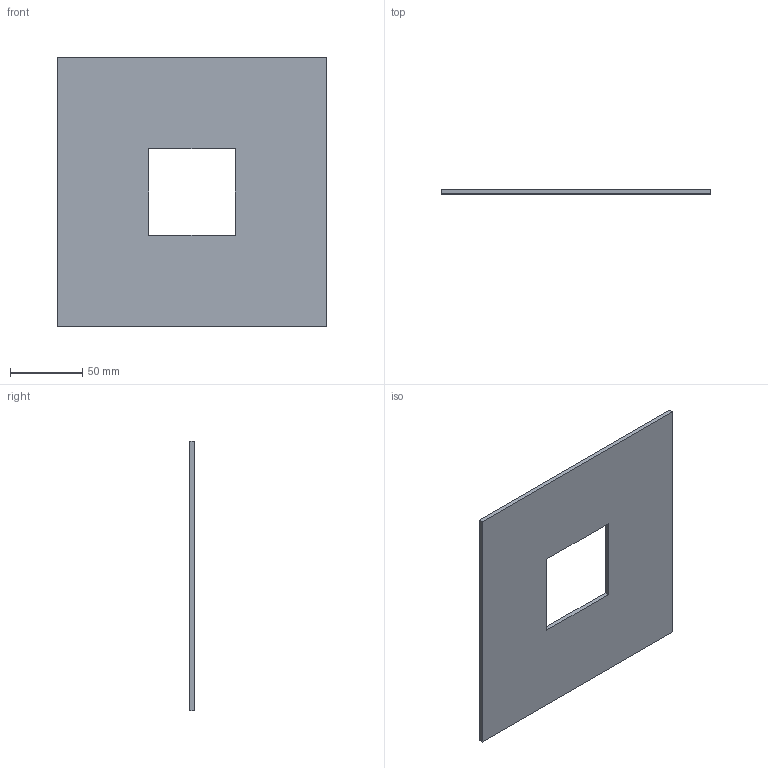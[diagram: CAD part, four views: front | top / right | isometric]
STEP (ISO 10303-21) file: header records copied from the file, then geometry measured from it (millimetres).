
FILE_DESCRIPTION(('Open CASCADE Model'),'2;1');
FILE_NAME('Open CASCADE Shape Model','2026-10-16T18:52:00',('Author'),( 'Open CASCADE'),'Open CASCADE STEP processor 7.8','Open CASCADE 7.8' ,'Unknown');
FILE_SCHEMA(('AUTOMOTIVE_DESIGN { 1 0 10303 214 1 1 1 1 }'));
Length unit declared in the file: millimetre
Products named in the file (1): Open CASCADE STEP translator 7.8 21
Bounding box: 186 x 3 x 186 mm (x, y, z)
Volume: 92988 mm3; surface area: 64944 mm2
Topology: 1 solids, 1 shells, 10 faces, 24 edges, 16 vertices
Faces by surface type: plane 10
Entity records: 598 total; most frequent: CARTESIAN_POINT 115, DIRECTION 78, LINE 56, VECTOR 56, ORIENTED_EDGE 48, PCURVE 48, DEFINITIONAL_REPRESENTATION 48, EDGE_CURVE 24
